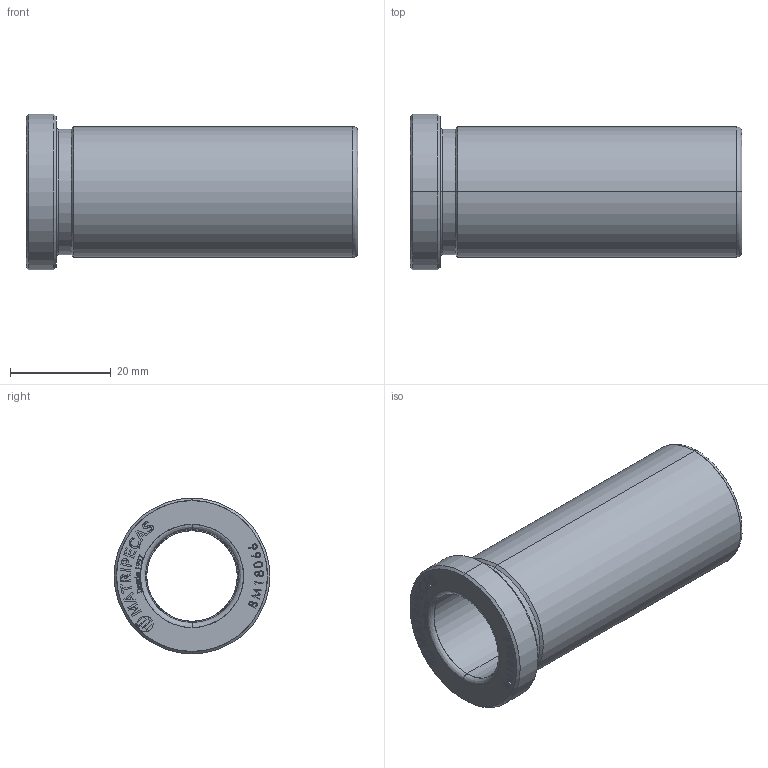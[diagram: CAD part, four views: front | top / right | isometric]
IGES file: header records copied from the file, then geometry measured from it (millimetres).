
Start section: SolidWorks IGES file using analytic representation for surfaces
Global section: file name: C:\Users\evers\OneDrive\Área de Trabalho\Trivector\MATRIPEÇAS\BM - BUCHA PRINCIPAL TIPO E31\BM18066.IGS; native system: SolidWorks 2024; preprocessor: SolidWorks 2024; author: evers; date: 260827.154703; units: millimetre
Bounding box: 66 x 31 x 31 mm (x, y, z)
Surface area: 10163.2 mm2 (no closed solid volume)
Topology: 0 solids, 0 shells, 409 faces, 4523 edges, 4523 vertices
Faces by surface type: bspline 382, revolution 27
